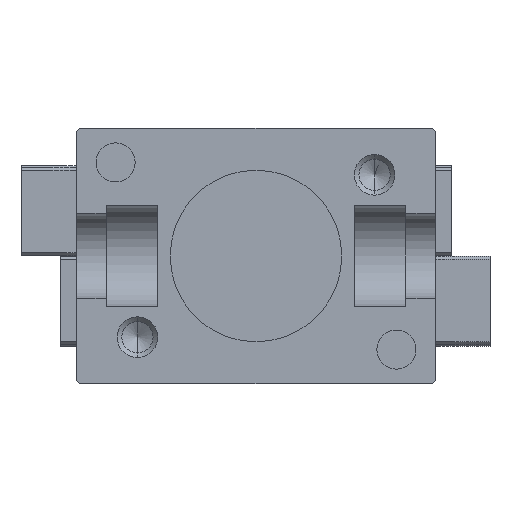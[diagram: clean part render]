
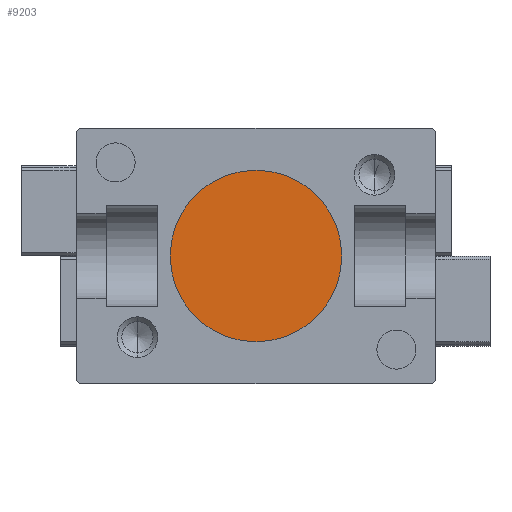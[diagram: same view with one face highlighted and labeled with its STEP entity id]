
A CAD part, front view. The second image highlights one B-rep face of the part: STEP entity #9203.
In plain terms, the highlighted planar face has unit normal (0, -1, 0).
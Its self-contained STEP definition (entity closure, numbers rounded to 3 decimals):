
#303 = EDGE_CURVE ( 'NONE', #874, #30304, #11036, .T. ) ;
#874 = VERTEX_POINT ( 'NONE', #35817 ) ;
#3011 = DIRECTION ( 'NONE',  ( 1., 0., 0. ) ) ;
#3567 = DIRECTION ( 'NONE',  ( 1., 0., 0. ) ) ;
#6764 = DIRECTION ( 'NONE',  ( 0., -1., 0. ) ) ;
#8644 = EDGE_CURVE ( 'NONE', #30304, #874, #46152, .T. ) ;
#9203 = ADVANCED_FACE ( 'NONE', ( #46688 ), #10495, .T. ) ;
#10495 = PLANE ( 'NONE',  #42406 ) ;
#11036 = CIRCLE ( 'NONE', #46215, 5.5 ) ;
#17583 = EDGE_LOOP ( 'NONE', ( #43382, #45400 ) ) ;
#24506 = DIRECTION ( 'NONE',  ( 0., -1., 0. ) ) ;
#25072 = DIRECTION ( 'NONE',  ( 0., -1., 0. ) ) ;
#28290 = CARTESIAN_POINT ( 'NONE',  ( 0., 2., 0. ) ) ;
#30304 = VERTEX_POINT ( 'NONE', #37999 ) ;
#31923 = DIRECTION ( 'NONE',  ( 1., 0., 0. ) ) ;
#35817 = CARTESIAN_POINT ( 'NONE',  ( -5.5, 2., 0. ) ) ;
#37999 = CARTESIAN_POINT ( 'NONE',  ( 5.5, 2., 0. ) ) ;
#40881 = AXIS2_PLACEMENT_3D ( 'NONE', #46096, #24506, #3011 ) ;
#42406 = AXIS2_PLACEMENT_3D ( 'NONE', #46659, #25072, #3567 ) ;
#43382 = ORIENTED_EDGE ( 'NONE', *, *, #8644, .T. ) ;
#45400 = ORIENTED_EDGE ( 'NONE', *, *, #303, .T. ) ;
#46096 = CARTESIAN_POINT ( 'NONE',  ( 0., 2., 0. ) ) ;
#46152 = CIRCLE ( 'NONE', #40881, 5.5 ) ;
#46215 = AXIS2_PLACEMENT_3D ( 'NONE', #28290, #6764, #31923 ) ;
#46659 = CARTESIAN_POINT ( 'NONE',  ( 0., 2., 0. ) ) ;
#46688 = FACE_OUTER_BOUND ( 'NONE', #17583, .T. ) ;
